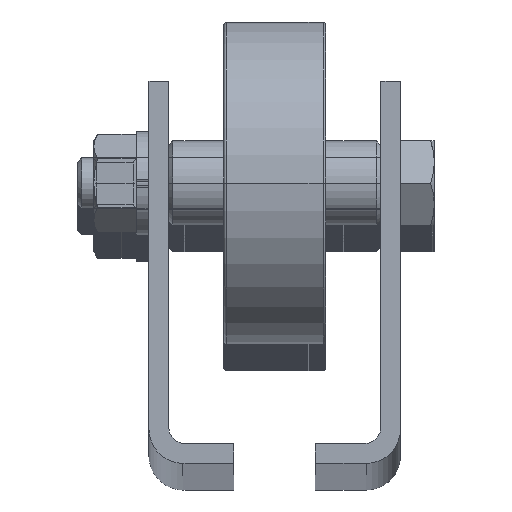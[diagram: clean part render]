
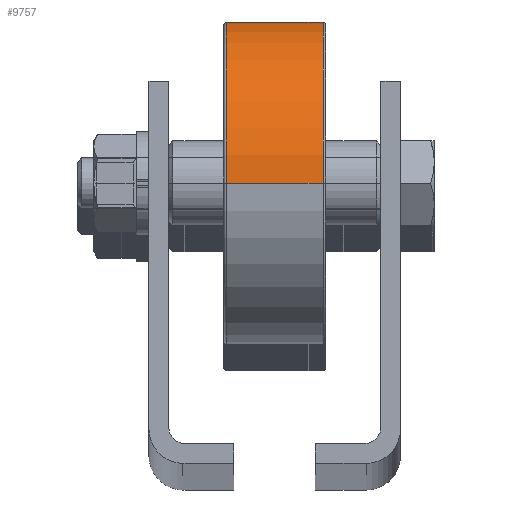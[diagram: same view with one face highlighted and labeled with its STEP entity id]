
A CAD part, top view. The second image highlights one B-rep face of the part: STEP entity #9757.
In plain terms, the highlighted cylindrical face has radius 19 mm (diameter 38 mm), a partial arc.
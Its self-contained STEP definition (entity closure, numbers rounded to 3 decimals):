
#54 = EDGE_LOOP ( 'NONE', ( #9107, #9108, #9109, #9110 ) ) ;
#2022 = CIRCLE ( 'NONE', #9031, 19. ) ;
#2026 = CIRCLE ( 'NONE', #9062, 19. ) ;
#2133 = CARTESIAN_POINT ( 'NONE',  ( 0.3, 0., 0. ) ) ;
#2134 = DIRECTION ( 'NONE',  ( 1., 0., 0. ) ) ;
#2135 = DIRECTION ( 'NONE',  ( 0., 0., -1. ) ) ;
#2156 = CARTESIAN_POINT ( 'NONE',  ( 11.7, 0., 0. ) ) ;
#2157 = DIRECTION ( 'NONE',  ( -1., 0., 0. ) ) ;
#2158 = DIRECTION ( 'NONE',  ( 0., 0., -1. ) ) ;
#2377 = DIRECTION ( 'NONE',  ( -1., 0., 0. ) ) ;
#2382 = CARTESIAN_POINT ( 'NONE',  ( 12., 0., -19. ) ) ;
#2389 = CARTESIAN_POINT ( 'NONE',  ( 12., 0., 19. ) ) ;
#2391 = DIRECTION ( 'NONE',  ( -1., 0., 0. ) ) ;
#2638 = CARTESIAN_POINT ( 'NONE',  ( 0.3, 0., 19. ) ) ;
#2639 = CARTESIAN_POINT ( 'NONE',  ( 11.7, 0., -19. ) ) ;
#2710 = CARTESIAN_POINT ( 'NONE',  ( 11.7, 0., 19. ) ) ;
#2711 = CARTESIAN_POINT ( 'NONE',  ( 0.3, 0., -19. ) ) ;
#3374 = AXIS2_PLACEMENT_3D ( 'NONE', #4163, #4161, #4159 ) ;
#4159 = DIRECTION ( 'NONE',  ( 0., 0., 1. ) ) ;
#4161 = DIRECTION ( 'NONE',  ( -1., 0., 0. ) ) ;
#4163 = CARTESIAN_POINT ( 'NONE',  ( 12., 0., 0. ) ) ;
#4902 = FACE_OUTER_BOUND ( 'NONE', #54, .T. ) ;
#4907 = CYLINDRICAL_SURFACE ( 'NONE', #3374, 19. ) ;
#7709 = EDGE_CURVE ( 'NONE', #8556, #8449, #2022, .T. ) ;
#7715 = EDGE_CURVE ( 'NONE', #8555, #8450, #2026, .T. ) ;
#7790 = EDGE_CURVE ( 'NONE', #8450, #8556, #9471, .T. ) ;
#7791 = EDGE_CURVE ( 'NONE', #8555, #8449, #9472, .T. ) ;
#8449 = VERTEX_POINT ( 'NONE', #2638 ) ;
#8450 = VERTEX_POINT ( 'NONE', #2639 ) ;
#8555 = VERTEX_POINT ( 'NONE', #2710 ) ;
#8556 = VERTEX_POINT ( 'NONE', #2711 ) ;
#9031 = AXIS2_PLACEMENT_3D ( 'NONE', #2133, #2134, #2135 ) ;
#9062 = AXIS2_PLACEMENT_3D ( 'NONE', #2156, #2157, #2158 ) ;
#9107 = ORIENTED_EDGE ( 'NONE', *, *, #7715, .T. ) ;
#9108 = ORIENTED_EDGE ( 'NONE', *, *, #7790, .T. ) ;
#9109 = ORIENTED_EDGE ( 'NONE', *, *, #7709, .T. ) ;
#9110 = ORIENTED_EDGE ( 'NONE', *, *, #7791, .F. ) ;
#9471 = LINE ( 'NONE', #2382, #9473 ) ;
#9472 = LINE ( 'NONE', #2389, #9475 ) ;
#9473 = VECTOR ( 'NONE', #2377, 1000. ) ;
#9475 = VECTOR ( 'NONE', #2391, 1000. ) ;
#9757 = ADVANCED_FACE ( 'NONE', ( #4902 ), #4907, .T. ) ;
